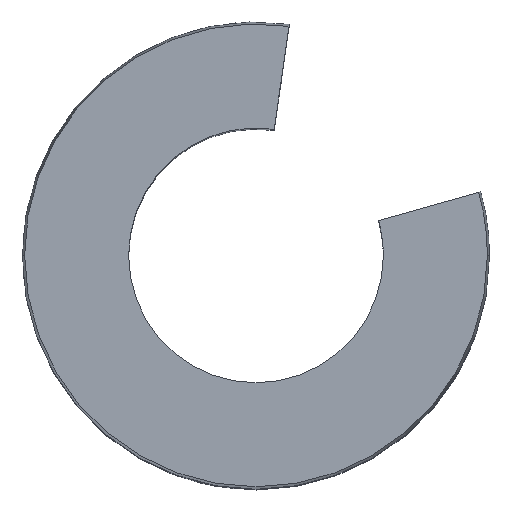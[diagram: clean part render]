
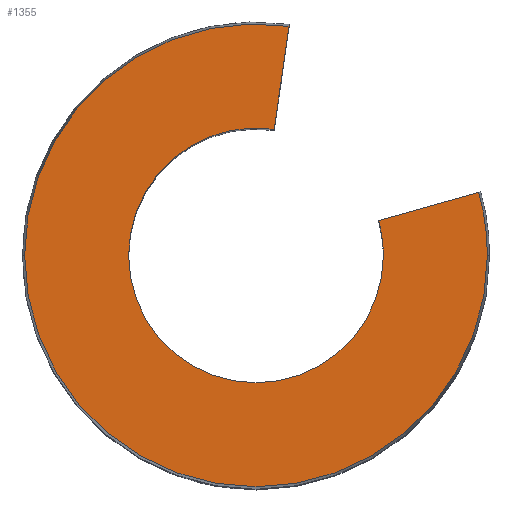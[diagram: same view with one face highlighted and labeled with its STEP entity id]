
A CAD part, top view. The second image highlights one B-rep face of the part: STEP entity #1355.
In plain terms, the highlighted planar face has unit normal (0, 0, 1).
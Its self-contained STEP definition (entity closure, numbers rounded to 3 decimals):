
#51=CARTESIAN_POINT('',(3.201,1.811,32.0));
#52=VERTEX_POINT('',#51);
#59=CARTESIAN_POINT('',(2.974,3.445,32.0));
#60=VERTEX_POINT('',#59);
#61=CARTESIAN_POINT('',(-2.799,1.811,32.0));
#62=DIRECTION('',(0.0,0.0,-1.0));
#63=DIRECTION('',(-1.0,0.0,0.0));
#64=AXIS2_PLACEMENT_3D('',#61,#62,#63);
#65=CIRCLE('',#64,6.);
#66=EDGE_CURVE('',#60,#52,#65,.T.);
#91=CARTESIAN_POINT('',(-8.799,1.811,32.0));
#92=VERTEX_POINT('',#91);
#101=CARTESIAN_POINT('',(-2.799,1.811,32.0));
#102=DIRECTION('',(0.0,0.0,-1.0));
#103=DIRECTION('',(-1.0,0.0,0.0));
#104=AXIS2_PLACEMENT_3D('',#101,#102,#103);
#105=CIRCLE('',#104,6.);
#106=EDGE_CURVE('',#52,#92,#105,.T.);
#556=CARTESIAN_POINT('',(8.101,1.811,32.0));
#557=VERTEX_POINT('',#556);
#565=CARTESIAN_POINT('',(7.689,4.779,32.0));
#566=VERTEX_POINT('',#565);
#573=CARTESIAN_POINT('',(-2.799,1.811,32.0));
#574=DIRECTION('',(0.0,0.0,-1.0));
#575=DIRECTION('',(-1.0,0.0,0.0));
#576=AXIS2_PLACEMENT_3D('',#573,#574,#575);
#577=CIRCLE('',#576,10.9);
#578=EDGE_CURVE('',#566,#557,#577,.T.);
#588=CARTESIAN_POINT('',(-13.699,1.811,32.0));
#589=VERTEX_POINT('',#588);
#596=CARTESIAN_POINT('',(-1.244,12.6,32.0));
#597=VERTEX_POINT('',#596);
#598=CARTESIAN_POINT('',(-2.799,1.811,32.0));
#599=DIRECTION('',(0.0,0.0,-1.0));
#600=DIRECTION('',(-1.0,0.0,0.0));
#601=AXIS2_PLACEMENT_3D('',#598,#599,#600);
#602=CIRCLE('',#601,10.9);
#603=EDGE_CURVE('',#589,#597,#602,.T.);
#733=CARTESIAN_POINT('',(-1.943,7.75,32.0));
#734=VERTEX_POINT('',#733);
#735=CARTESIAN_POINT('',(-1.943,7.75,32.0));
#736=DIRECTION('',(0.143,0.99,0.0));
#737=VECTOR('',#736,4.9);
#738=LINE('',#735,#737);
#739=EDGE_CURVE('',#734,#597,#738,.T.);
#854=CARTESIAN_POINT('',(7.689,4.779,32.0));
#855=DIRECTION('',(-0.962,-0.272,0.0));
#856=VECTOR('',#855,4.9);
#857=LINE('',#854,#856);
#858=EDGE_CURVE('',#566,#60,#857,.T.);
#904=CARTESIAN_POINT('',(-2.799,1.811,32.0));
#905=DIRECTION('',(0.0,0.0,-1.0));
#906=DIRECTION('',(-1.0,0.0,0.0));
#907=AXIS2_PLACEMENT_3D('',#904,#905,#906);
#908=CIRCLE('',#907,10.9);
#909=EDGE_CURVE('',#557,#589,#908,.T.);
#1334=CARTESIAN_POINT('',(-2.799,1.811,32.0));
#1335=DIRECTION('',(0.0,0.0,-1.0));
#1336=DIRECTION('',(-1.0,0.0,0.0));
#1337=AXIS2_PLACEMENT_3D('',#1334,#1335,#1336);
#1338=PLANE('',#1337);
#1339=ORIENTED_EDGE('',*,*,#739,.T.);
#1340=ORIENTED_EDGE('',*,*,#603,.F.);
#1341=ORIENTED_EDGE('',*,*,#909,.F.);
#1342=ORIENTED_EDGE('',*,*,#578,.F.);
#1343=ORIENTED_EDGE('',*,*,#858,.T.);
#1344=ORIENTED_EDGE('',*,*,#66,.T.);
#1345=ORIENTED_EDGE('',*,*,#106,.T.);
#1346=CARTESIAN_POINT('',(-2.799,1.811,32.0));
#1347=DIRECTION('',(0.0,0.0,-1.0));
#1348=DIRECTION('',(-1.0,0.0,0.0));
#1349=AXIS2_PLACEMENT_3D('',#1346,#1347,#1348);
#1350=CIRCLE('',#1349,6.);
#1351=EDGE_CURVE('',#92,#734,#1350,.T.);
#1352=ORIENTED_EDGE('',*,*,#1351,.T.);
#1353=EDGE_LOOP('',(#1339,#1340,#1341,#1342,#1343,#1344,#1345,#1352));
#1354=FACE_OUTER_BOUND('',#1353,.T.);
#1355=ADVANCED_FACE('',(#1354),#1338,.F.);
